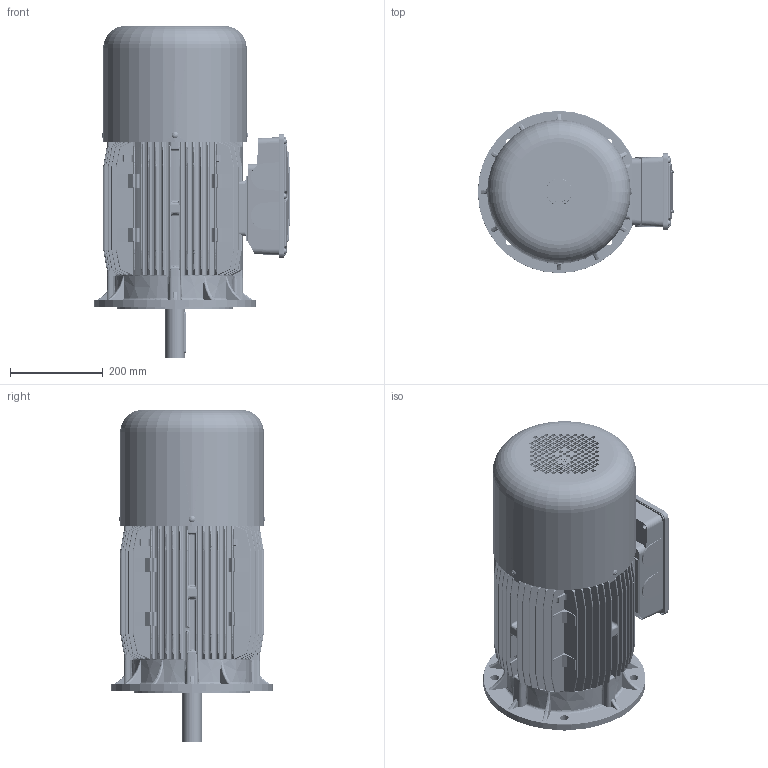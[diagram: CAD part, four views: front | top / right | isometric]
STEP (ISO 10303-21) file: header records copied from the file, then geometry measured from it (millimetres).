
FILE_DESCRIPTION (( 'STEP AP214' ), '1' );
FILE_NAME ('M14KB0011.STEP', '2019-04-16T09:54:22', ( '' ), ( '' ), 'SwSTEP 2.0', 'SolidWorks 2018', '' );
FILE_SCHEMA (( 'AUTOMOTIVE_DESIGN' ));
Length unit declared in the file: millimetre
Products named in the file (15): Carcassa 160 M B5; M14KB0011; Vite a Brugola M10x75; Vite testa rotonda M6; Scatola Morsettiera Doppia BA 160 - 180 - 200 - Completa; Guarnizione Basetta BA 160-180 - 200 - D6BB0000; Vite Testa Bombata M6x20; Guarnizione Coperchio Sc. Mor. BA 160-180-200 - D6BA0100; Coperchio Scatola Morsettiera Doppia BA 160 - 180 - 200 - D6A60099; Scatola morsettiera 160; Cuffia BM 160; Scudo Lato Freno P1 BM 160 - D6BE0202; Chiavetta 160; Albero BM 160 M; Scudo a flangia B5 Fi 350 BA 160 - D6AA0094
Assembly tree (25 placements, depth 3):
  M14KB0011
    Carcassa 160 M B5
    Scudo a flangia B5 Fi 350 BA 160 - D6AA0094
    Albero BM 160 M
    Chiavetta 160
    Scudo Lato Freno P1 BM 160 - D6BE0202
    Cuffia BM 160
    Scatola Morsettiera Doppia BA 160 - 180 - 200 - Completa
      Scatola morsettiera 160
      Coperchio Scatola Morsettiera Doppia BA 160 - 180 - 200 - D6A60099
      Guarnizione Coperchio Sc. Mor. BA 160-180-200 - D6BA0100
      Vite Testa Bombata M6x20  x6
      Guarnizione Basetta BA 160-180 - 200 - D6BB0000
    Vite testa rotonda M6  x4
    Vite a Brugola M10x75  x4
Bounding box: 423.49 x 350 x 716 mm (x, y, z)
Volume: 8727036 mm3; surface area: 2777413.9 mm2
Topology: 24 solids, 24 shells, 5130 faces, 14335 edges, 9189 vertices
Faces by surface type: cylinder 2261, plane 1574, bspline 563, torus 356, cone 326, sphere 50
Entity records: 234997 total; most frequent: CARTESIAN_POINT 125384, ORIENTED_EDGE 24034, DIRECTION 20809, EDGE_CURVE 12017, VERTEX_POINT 7746, AXIS2_PLACEMENT_3D 7689, LINE 5431, VECTOR 5431
